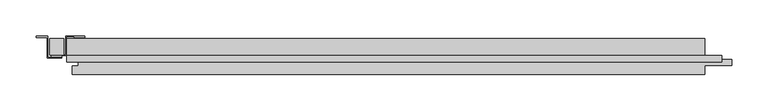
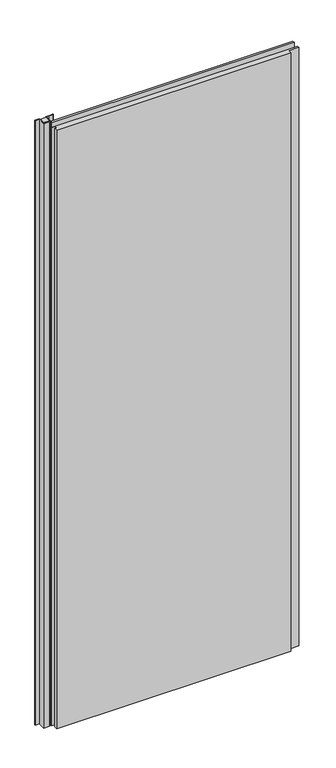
"""IFC4 building model written with IfcOpenShell, lengths in millimetres: plate geometry, Trimo_Qbiss Screen_Normal Panel-VERTICAL : HR - B."""

from ifc_helpers import new_model, si_unit, frame, origin, place, context, project, spatial, polyline, outline, extrude, source, transform, mapped, element, save


def plate_7177283f(model_context):
    return source(origin(), model_context, "Body", "SweptSolid", [
        extrude(outline(polyline([(-436.8, 126.0), (-436.8, 103.2), (-455.8, 103.2), (-455.8, 126.0), (-436.8, 126.0)])), frame((0.0, 0.0, 12.5), z_axis=(0.0, 0.0, 1.0), x_axis=(1.0, 0.0, 0.0)), (0.0, 0.0, 1.0), 2400.0),
        extrude(outline(polyline([(-407.0, 127.6), (-422.0, 127.6), (-422.0, 128.4), (-407.8, 128.4), (-407.8, 129.2), (-433.0, 129.2), (-433.0, 102.4), (-453.2, 102.4), (-453.2, 101.6), (-439.0, 101.6), (-439.0, 100.8), (-454.0, 100.8), (-454.0, 103.2), (-433.8, 103.2), (-433.8, 130.0), (-407.0, 130.0), (-407.0, 127.6)])), frame((0.0, 0.0, 12.5), z_axis=(0.0, 0.0, 1.0), x_axis=(1.0, 0.0, 0.0)), (0.0, 0.0, 1.0), 2400.0),
        extrude(outline(polyline([(-439.0, 100.0), (-439.0, 99.2), (-459.6, 99.2), (-459.6, 129.2), (-474.2, 129.2), (-474.2, 128.4), (-460.0, 128.4), (-460.0, 127.6), (-475.0, 127.6), (-475.0, 130.0), (-458.8, 130.0), (-458.8, 100.0), (-439.0, 100.0)])), frame((0.0, 0.0, 12.5), z_axis=(0.0, 0.0, 1.0), x_axis=(1.0, 0.0, 0.0)), (0.0, 0.0, 1.0), 2400.0),
        extrude(outline(polyline([(455.0, 97.0), (455.0, 102.6), (476.0, 102.6), (476.0, 97.0), (455.0, 97.0)])), frame((0.0, 0.0, 12.5), z_axis=(0.0, 0.0, 1.0), x_axis=(1.0, 0.0, 0.0)), (0.0, 0.0, 1.0), 2375.0),
        extrude(outline(polyline([(-432.0, 93.9), (-432.0, 102.6), (477.0, 102.6), (477.0, 93.9), (-432.0, 93.9)])), frame((0.0, 0.0, 2390.5), z_axis=(0.0, 0.0, 1.0), x_axis=(1.0, 0.0, 0.0)), (0.0, 0.0, 1.0), 19.0),
        extrude(outline(polyline([(454.0, 97.0), (491.5, 97.0), (491.5, 89.0), (454.0, 89.0), (454.0, 76.0), (-425.0, 76.0), (-425.0, 88.0), (-416.5, 88.0), (-416.5, 98.0), (-432.0, 98.0), (-432.0, 126.0), (454.0, 126.0), (454.0, 97.0)])), frame((0.0, 0.0, 12.5), z_axis=(0.0, 0.0, 1.0), x_axis=(1.0, 0.0, 0.0)), (0.0, 0.0, 1.0), 2375.0),
    ])


if __name__ == "__main__":
    model = new_model("IFC4")
    model_context = context("Model", 3, world=origin())
    ifc_project = project(units=[si_unit("LENGTHUNIT", "METRE", prefix="MILLI")], contexts=[model_context])
    site = spatial("IfcSite", under=ifc_project)
    building = spatial("IfcBuilding", under=site)
    placement = place(None, origin())
    plate_shape = plate_7177283f(model_context)
    element("IfcPlate", 1, ObjectType="Trimo_Qbiss Screen_Normal Panel-VERTICAL : HR - B", at=placement, inside=building, context=model_context, shape_type="MappedRepresentation", body=[
        mapped(plate_shape, transform((0.0, 0.0, 0.0), x_axis=(1.0, 0.0, 0.0), y_axis=(0.0, 1.0, 0.0), z_axis=(0.0, 0.0, 1.0))),
    ])
    save(model, "model.ifc")
